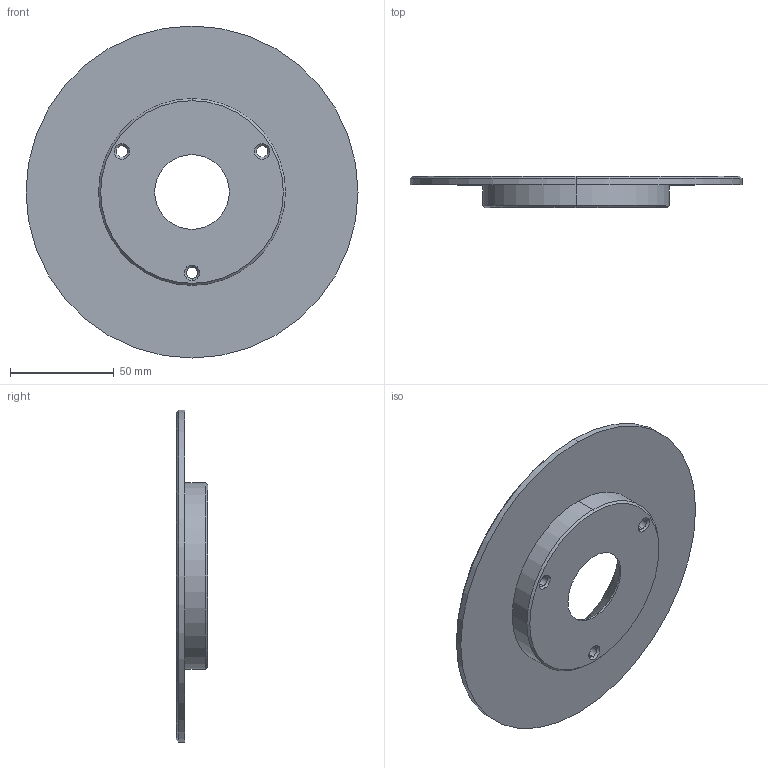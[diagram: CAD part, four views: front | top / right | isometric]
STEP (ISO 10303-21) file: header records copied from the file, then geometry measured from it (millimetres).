
FILE_DESCRIPTION (( 'STEP AP214' ), '1' );
FILE_NAME ('BR1000-160x15.STEP', '2020-02-05T12:24:14', ( 'August' ), ( '' ), 'SwSTEP 2.0', 'SolidWorks 2018', '' );
FILE_SCHEMA (( 'AUTOMOTIVE_DESIGN' ));
Length unit declared in the file: millimetre
Products named in the file (1): BR1000-160x15
Bounding box: 160 x 15 x 160 mm (x, y, z)
Volume: 118864.3 mm3; surface area: 44626.1 mm2
Topology: 1 solids, 1 shells, 42 faces, 90 edges, 54 vertices
Faces by surface type: cone 18, cylinder 18, plane 6
Entity records: 1194 total; most frequent: DIRECTION 230, CARTESIAN_POINT 187, ORIENTED_EDGE 180, AXIS2_PLACEMENT_3D 97, EDGE_CURVE 90, CIRCLE 54, EDGE_LOOP 54, VERTEX_POINT 54
